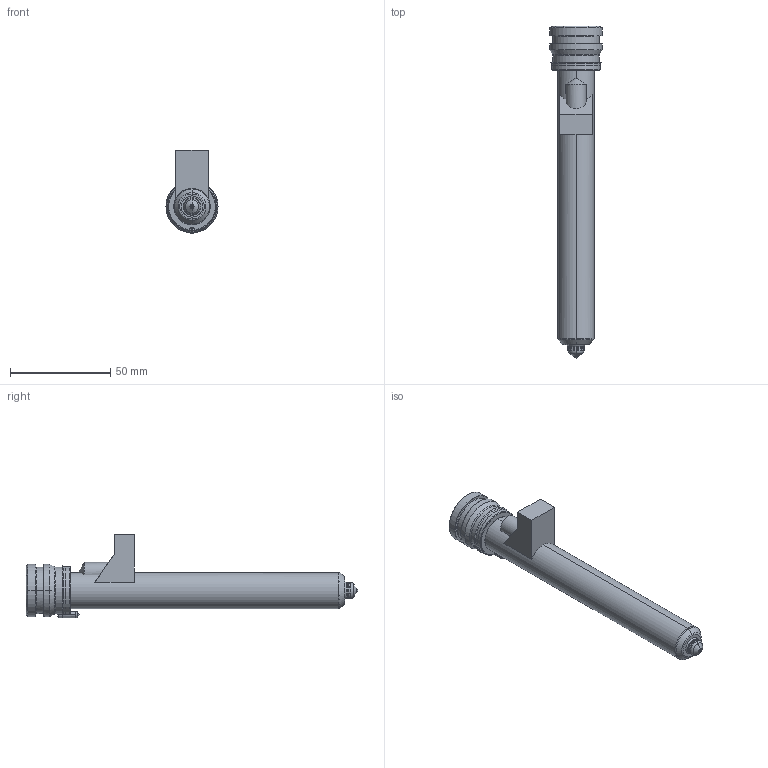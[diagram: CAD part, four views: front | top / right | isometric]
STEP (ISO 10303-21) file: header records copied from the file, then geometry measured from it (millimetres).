
FILE_DESCRIPTION((''),'2;1');
FILE_NAME('MPN-08-24-TX8-146-M','2026-02-05T13:26:34',('UPTIO'),('Thermoplay S.p.A.'),'CREO PARAMETRIC BY PTC INC, 2023494','CREO PARAMETRIC BY PTC INC, 2023494','');
FILE_SCHEMA(('CONFIG_CONTROL_DESIGN','SHAPE_APPEARANCE_LAYERS_GROUPS'));
Length unit declared in the file: millimetre
Products named in the file (1): MPN-08-24-TX8-146-M
Bounding box: 26 x 165.5 x 41.5 mm (x, y, z)
Volume: 31370.6 mm3; surface area: 41708.2 mm2
Topology: 2 solids, 3 shells, 532 faces, 1392 edges, 855 vertices
Faces by surface type: cylinder 174, plane 144, bspline 77, torus 62, cone 58, sphere 11, extrusion 6
Entity records: 28038 total; most frequent: CARTESIAN_POINT 12414, ORIENTED_EDGE 2762, DIRECTION 2491, EDGE_CURVE 1381, AXIS2_PLACEMENT_3D 974, VERTEX_POINT 855, EDGE_LOOP 562, VECTOR 543
